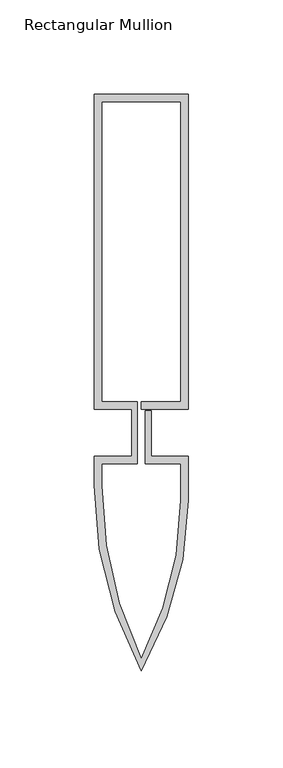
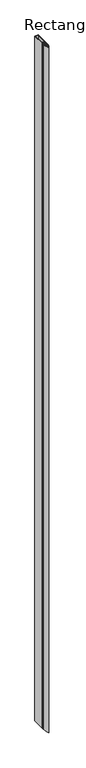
"""IFC4 building model written with IfcOpenShell, lengths in millimetres: member geometry, Rectangular Mullion : Reynaers_CW-50_Mullion-Transom_Vertical_167.5mm_Facecap-05."""

from ifc_helpers import new_model, si_unit, point, frame, frame_2d, origin, place, context, project, spatial, polyline, circle_curve, trimmed, segment, composite_curve, outline, extrude, source, transform, mapped, element, save


def rectangular_mullion_ee727ef9(model_context):
    return source(origin(), model_context, "Body", "SweptSolid", [
        extrude(outline(composite_curve([segment(polyline([(-24.8004059, 180.0), (25.1995941, 180.0), (25.1995941, 12.5), (0.0, 12.5), (0.0, 16.5), (21.1995941, 16.5), (21.1995941, 176.0), (-20.8004059, 176.0), (-20.8004059, 16.5), (-1.9004059, 16.5), (-1.9004059, -16.5), (-20.994845, -16.5), (-20.994845, -28.2355063)]), True, "CONTINUOUS"), segment(trimmed(circle_curve(frame_2d((191.2554764, -28.2355063)), 212.2503214), [point((-20.994845, -28.2355063))], [point((0.0, -120.2764846))], True, "CARTESIAN"), True, "CONTINUOUS"), segment(trimmed(circle_curve(frame_2d((-158.432152, -36.0547506)), 179.426997), [point((0.0, -120.2764846))], [point((20.994845, -36.0547506))], True, "CARTESIAN"), True, "CONTINUOUS"), segment(polyline([(20.994845, -36.0547506), (20.994845, -16.5), (2.2995941, -16.5), (2.2995941, 11.5), (5.2995941, 11.5), (5.2995941, -12.5), (24.994845, -12.5), (24.994845, -36.0195976)]), True, "CONTINUOUS"), segment(trimmed(circle_curve(frame_2d((-151.2704106, -36.0195976)), 176.2652556), [point((24.994845, -36.0195976))], [point((0.0, -126.5))], False, "CARTESIAN"), True, "CONTINUOUS"), segment(trimmed(circle_curve(frame_2d((181.1469577, -28.111878)), 206.1418028), [point((0.0, -126.5))], [point((-24.994845, -28.111878))], False, "CARTESIAN"), True, "CONTINUOUS"), segment(polyline([(-24.994845, -28.111878), (-24.994845, -12.5), (-4.9004059, -12.5), (-4.9004059, 12.5), (-24.8004059, 12.5), (-24.8004059, 180.0)]), True, "CONTINUOUS")], self_intersect=False)), frame((0.0, 0.0, -10400.0), z_axis=(0.0, 0.0, 1.0), x_axis=(1.0, 0.0, 0.0)), (0.0, 0.0, 1.0), 10400.0),
    ])


if __name__ == "__main__":
    model = new_model("IFC4")
    model_context = context("Model", 3, world=origin())
    ifc_project = project(units=[si_unit("LENGTHUNIT", "METRE", prefix="MILLI")], contexts=[model_context])
    site = spatial("IfcSite", under=ifc_project)
    building = spatial("IfcBuilding", under=site)
    placement = place(None, origin())
    rectangular_mullion_shape = rectangular_mullion_ee727ef9(model_context)
    element("IfcMember", 1, ObjectType="Rectangular Mullion : Reynaers_CW-50_Mullion-Transom_Vertical_167.5mm_Facecap-05", at=placement, inside=building, context=model_context, shape_type="MappedRepresentation", body=[
        mapped(rectangular_mullion_shape, transform((0.0, 0.0, 0.0), x_axis=(1.0, 0.0, 0.0), y_axis=(0.0, 1.0, 0.0), z_axis=(0.0, 0.0, 1.0))),
    ])
    save(model, "model.ifc")
